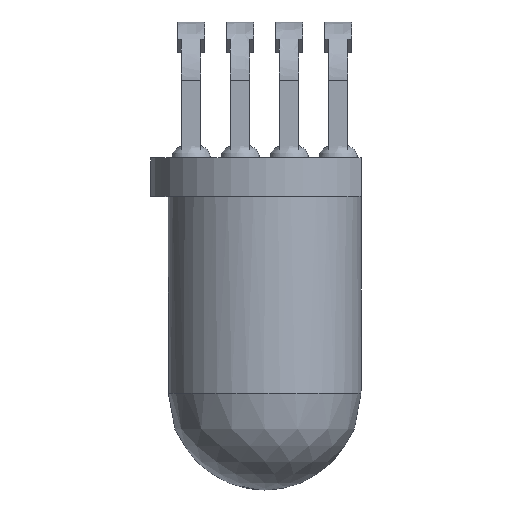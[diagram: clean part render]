
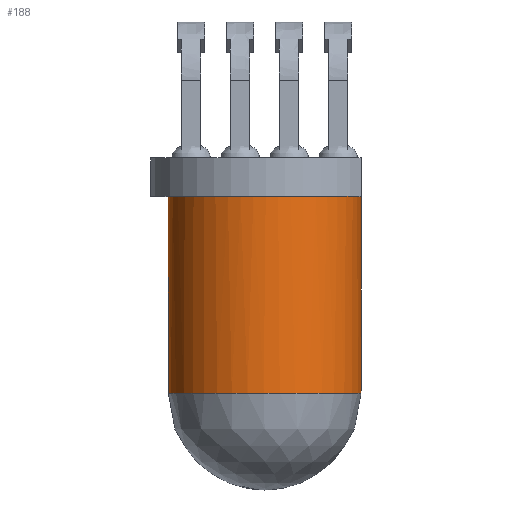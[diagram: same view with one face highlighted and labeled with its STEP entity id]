
A CAD part, top view. The second image highlights one B-rep face of the part: STEP entity #188.
In plain terms, the highlighted cylindrical face has radius 2.5 mm (diameter 5 mm), a full revolution.
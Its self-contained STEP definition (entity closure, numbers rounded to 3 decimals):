
#20=CYLINDRICAL_SURFACE('',#1388,2.5);
#35=(
BOUNDED_CURVE()
B_SPLINE_CURVE(2,(#4857,#4858,#4859,#4860,#4861,#4862,#4863),
 .UNSPECIFIED.,.F.,.F.)
B_SPLINE_CURVE_WITH_KNOTS((3,2,2,3),(-15.708,-11.781,
-7.854,-3.927),.UNSPECIFIED.)
CURVE()
GEOMETRIC_REPRESENTATION_ITEM()
RATIONAL_B_SPLINE_CURVE((1.,0.707,1.,0.707,1.,0.707,
1.))
REPRESENTATION_ITEM('')
);
#36=(
BOUNDED_CURVE()
B_SPLINE_CURVE(1,(#4864,#4865),.UNSPECIFIED.,.F.,.F.)
B_SPLINE_CURVE_WITH_KNOTS((2,2),(1.,6.1),.UNSPECIFIED.)
CURVE()
GEOMETRIC_REPRESENTATION_ITEM()
RATIONAL_B_SPLINE_CURVE((1.,1.))
REPRESENTATION_ITEM('')
);
#41=(
BOUNDED_CURVE()
B_SPLINE_CURVE(2,(#4890,#4891,#4892),.UNSPECIFIED.,.F.,.F.)
B_SPLINE_CURVE_WITH_KNOTS((3,3),(-3.927,0.),.UNSPECIFIED.)
CURVE()
GEOMETRIC_REPRESENTATION_ITEM()
RATIONAL_B_SPLINE_CURVE((1.,0.707,1.))
REPRESENTATION_ITEM('')
);
#42=(
BOUNDED_CURVE()
B_SPLINE_CURVE(2,(#4893,#4894,#4895,#4896,#4897,#4898,#4899,#4900,#4901,
#4902,#4903),.UNSPECIFIED.,.T.,.F.)
B_SPLINE_CURVE_WITH_KNOTS((3,2,2,2,2,3),(-15.708,-12.763,
-9.817,-6.872,-3.927,0.),.UNSPECIFIED.)
CURVE()
GEOMETRIC_REPRESENTATION_ITEM()
RATIONAL_B_SPLINE_CURVE((1.,0.831,1.,0.831,1.,0.831,
1.,0.831,1.,0.707,1.))
REPRESENTATION_ITEM('')
);
#188=ADVANCED_FACE('',(#268),#20,.T.);
#268=FACE_OUTER_BOUND('',#352,.T.);
#352=EDGE_LOOP('',(#723,#724,#725,#726,#727));
#723=ORIENTED_EDGE('',*,*,#926,.F.);
#724=ORIENTED_EDGE('',*,*,#934,.F.);
#725=ORIENTED_EDGE('',*,*,#925,.F.);
#726=ORIENTED_EDGE('',*,*,#926,.T.);
#727=ORIENTED_EDGE('',*,*,#935,.T.);
#925=EDGE_CURVE('',#1240,#1245,#35,.T.);
#926=EDGE_CURVE('',#1240,#1239,#36,.T.);
#934=EDGE_CURVE('',#1245,#1240,#41,.T.);
#935=EDGE_CURVE('',#1239,#1239,#42,.T.);
#1239=VERTEX_POINT('',#4823);
#1240=VERTEX_POINT('',#4824);
#1245=VERTEX_POINT('',#4829);
#1388=AXIS2_PLACEMENT_3D('',#4767,#1442,$);
#1442=DIRECTION('',(0.,-1.,0.));
#4767=CARTESIAN_POINT('',(60.,-8.5,9.));
#4823=CARTESIAN_POINT('',(60.,-8.1,6.5));
#4824=CARTESIAN_POINT('',(60.,-3.,6.5));
#4829=CARTESIAN_POINT('',(62.5,-3.,9.));
#4857=CARTESIAN_POINT('',(60.,-3.,6.5));
#4858=CARTESIAN_POINT('',(57.5,-3.,6.5));
#4859=CARTESIAN_POINT('',(57.5,-3.,9.));
#4860=CARTESIAN_POINT('',(57.5,-3.,11.5));
#4861=CARTESIAN_POINT('',(60.,-3.,11.5));
#4862=CARTESIAN_POINT('',(62.5,-3.,11.5));
#4863=CARTESIAN_POINT('',(62.5,-3.,9.));
#4864=CARTESIAN_POINT('',(60.,-3.,6.5));
#4865=CARTESIAN_POINT('',(60.,-8.1,6.5));
#4890=CARTESIAN_POINT('',(62.5,-3.,9.));
#4891=CARTESIAN_POINT('',(62.5,-3.,6.5));
#4892=CARTESIAN_POINT('',(60.,-3.,6.5));
#4893=CARTESIAN_POINT('',(60.,-8.1,6.5));
#4894=CARTESIAN_POINT('',(58.33,-8.1,6.5));
#4895=CARTESIAN_POINT('',(57.69,-8.1,8.043));
#4896=CARTESIAN_POINT('',(57.051,-8.1,9.587));
#4897=CARTESIAN_POINT('',(58.232,-8.1,10.768));
#4898=CARTESIAN_POINT('',(59.413,-8.1,11.949));
#4899=CARTESIAN_POINT('',(60.957,-8.1,11.31));
#4900=CARTESIAN_POINT('',(62.5,-8.1,10.67));
#4901=CARTESIAN_POINT('',(62.5,-8.1,9.));
#4902=CARTESIAN_POINT('',(62.5,-8.1,6.5));
#4903=CARTESIAN_POINT('',(60.,-8.1,6.5));
